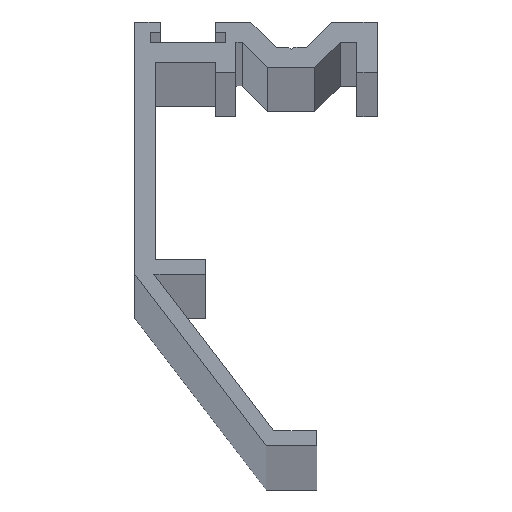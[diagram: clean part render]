
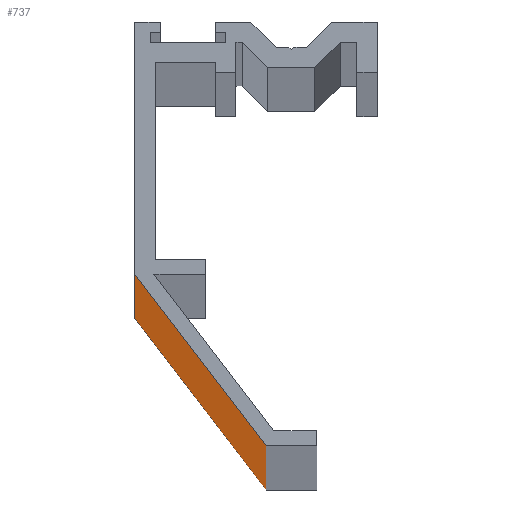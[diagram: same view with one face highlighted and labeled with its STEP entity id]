
A CAD part, top view. The second image highlights one B-rep face of the part: STEP entity #737.
In plain terms, the highlighted planar face has unit normal (-0.794, -0.608, 0).
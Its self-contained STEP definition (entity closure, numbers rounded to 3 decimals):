
#737=ADVANCED_FACE('',(#1328),#1329,.T.);
#1328=FACE_OUTER_BOUND('',#2125,.T.);
#1329=PLANE('',#2126);
#2125=EDGE_LOOP('',(#2825,#2826,#2827,#2828));
#2126=AXIS2_PLACEMENT_3D('',#2829,#2830,#2831);
#2825=ORIENTED_EDGE('',*,*,#3706,.T.);
#2826=ORIENTED_EDGE('',*,*,#3704,.T.);
#2827=ORIENTED_EDGE('',*,*,#3707,.F.);
#2828=ORIENTED_EDGE('',*,*,#3708,.F.);
#2829=CARTESIAN_POINT('',(-2.0,-1.5,0.0));
#2830=DIRECTION('',(-0.794,-0.607,0.0));
#2831=DIRECTION('',(0.607,-0.794,0.0));
#3704=EDGE_CURVE('',#4315,#4317,#4319,.T.);
#3706=EDGE_CURVE('',#4321,#4315,#4322,.T.);
#3707=EDGE_CURVE('',#4323,#4317,#4324,.T.);
#3708=EDGE_CURVE('',#4321,#4323,#4325,.T.);
#4315=VERTEX_POINT('',#4859);
#4317=VERTEX_POINT('',#4862);
#4319=LINE('',#4865,#4866);
#4321=VERTEX_POINT('',#4868);
#4322=LINE('',#4869,#4870);
#4323=VERTEX_POINT('',#4871);
#4324=LINE('',#4872,#4873);
#4325=LINE('',#4874,#4875);
#4859=CARTESIAN_POINT('',(11.0,-18.5,0.0));
#4862=CARTESIAN_POINT('',(11.0,-18.5,2500.0));
#4865=CARTESIAN_POINT('',(11.0,-18.5,0.0));
#4866=VECTOR('',#5367,1.0);
#4868=CARTESIAN_POINT('',(-2.0,-1.5,0.0));
#4869=CARTESIAN_POINT('',(-2.0,-1.5,0.0));
#4870=VECTOR('',#5368,1.0);
#4871=CARTESIAN_POINT('',(-2.0,-1.5,2500.0));
#4872=CARTESIAN_POINT('',(-2.0,-1.5,2500.0));
#4873=VECTOR('',#5369,1.0);
#4874=CARTESIAN_POINT('',(-2.0,-1.5,625.0));
#4875=VECTOR('',#5370,1.0);
#5367=DIRECTION('',(0.0,0.0,1.0));
#5368=DIRECTION('',(0.607,-0.794,0.0));
#5369=DIRECTION('',(0.607,-0.794,0.0));
#5370=DIRECTION('',(0.0,0.0,1.0));
